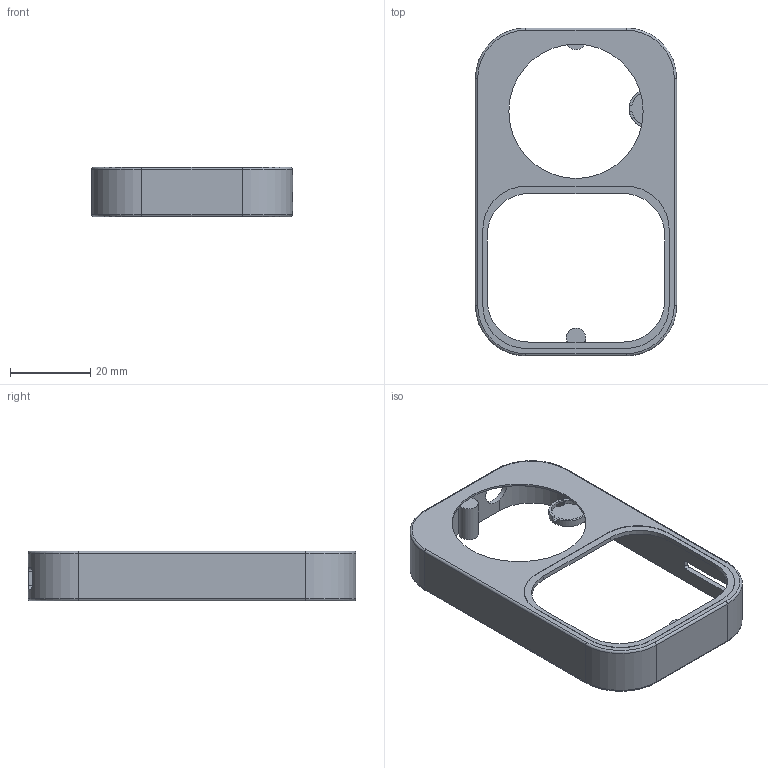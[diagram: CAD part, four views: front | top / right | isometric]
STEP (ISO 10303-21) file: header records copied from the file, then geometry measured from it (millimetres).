
FILE_DESCRIPTION(('FreeCAD Model'),'2;1');
FILE_NAME('Open CASCADE Shape Model','2026-09-23T11:35:07',('FreeCAD'),( 'FreeCAD'),'Open CASCADE STEP processor 7.8','FreeCAD','Unknown');
FILE_SCHEMA(('AUTOMOTIVE_DESIGN { 1 0 10303 214 1 1 1 1 }'));
Length unit declared in the file: millimetre
Products named in the file (1): Open CASCADE STEP translator 7.8 1
Bounding box: 50 x 81.5 x 12.3 mm (x, y, z)
Volume: 5011.6 mm3; surface area: 9322 mm2
Topology: 1 solids, 1 shells, 157 faces, 441 edges, 292 vertices
Faces by surface type: plane 84, cylinder 57, cone 8, torus 8
Full cylindrical faces by diameter (mm): 1.3 x5, 1.8 x2, 2.7 x2, 4.8 x1, 7.2 x1, 9.6 x1, 33.4 x1, 35.4 x1
Entity records: 5312 total; most frequent: CARTESIAN_POINT 1079, DIRECTION 917, ORIENTED_EDGE 882, EDGE_CURVE 441, AXIS2_PLACEMENT_3D 335, VERTEX_POINT 292, LINE 247, VECTOR 247
